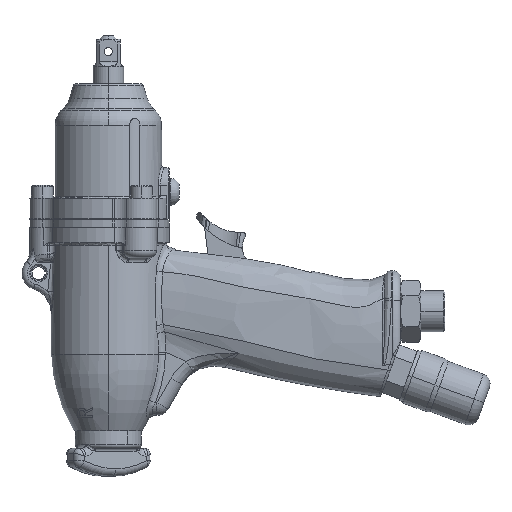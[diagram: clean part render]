
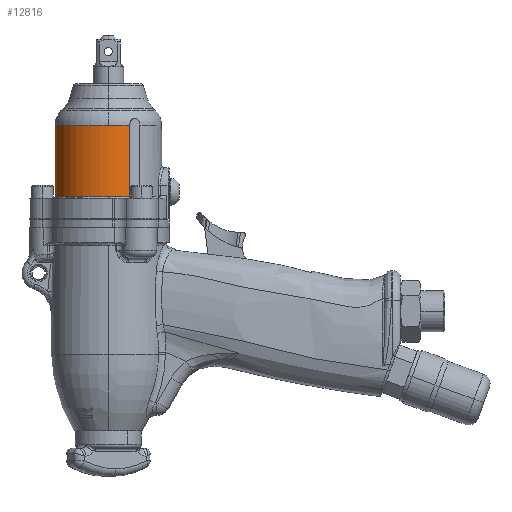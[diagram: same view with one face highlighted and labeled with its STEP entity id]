
A CAD part, left-side view. The second image highlights one B-rep face of the part: STEP entity #12816.
In plain terms, the highlighted cylindrical face has radius 21 mm (diameter 42 mm), a partial arc.
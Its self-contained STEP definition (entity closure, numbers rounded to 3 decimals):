
#12471 = VERTEX_POINT ( 'NONE', #75045 ) ;
#12473 = VERTEX_POINT ( 'NONE', #75044 ) ;
#12515 = VERTEX_POINT ( 'NONE', #75150 ) ;
#12517 = EDGE_CURVE ( 'NONE', #12518, #12515, #75149, .T. ) ;
#12518 = VERTEX_POINT ( 'NONE', #75144 ) ;
#12529 = EDGE_CURVE ( 'NONE', #12473, #12471, #75184, .T. ) ;
#12816 = ADVANCED_FACE ( 'NONE', ( #75837 ), #75835, .T. ) ;
#12817 = EDGE_LOOP ( 'NONE', ( #12818, #12821, #12822, #12823, #12881, #12882 ) ) ;
#12818 = ORIENTED_EDGE ( 'NONE', *, *, #12819, .T. ) ;
#12819 = EDGE_CURVE ( 'NONE', #12820, #12850, #75836, .T. ) ;
#12820 = VERTEX_POINT ( 'NONE', #75817 ) ;
#12821 = ORIENTED_EDGE ( 'NONE', *, *, #12826, .T. ) ;
#12822 = ORIENTED_EDGE ( 'NONE', *, *, #12517, .T. ) ;
#12823 = ORIENTED_EDGE ( 'NONE', *, *, #12824, .T. ) ;
#12824 = EDGE_CURVE ( 'NONE', #12515, #12473, #75816, .T. ) ;
#12826 = EDGE_CURVE ( 'NONE', #12850, #12518, #75811, .T. ) ;
#12850 = VERTEX_POINT ( 'NONE', #75923 ) ;
#12881 = ORIENTED_EDGE ( 'NONE', *, *, #12529, .T. ) ;
#12882 = ORIENTED_EDGE ( 'NONE', *, *, #12883, .T. ) ;
#12883 = EDGE_CURVE ( 'NONE', #12471, #12820, #76010, .T. ) ;
#75044 = CARTESIAN_POINT ( 'NONE',  ( -2.267, 20.877, -44.5 ) ) ;
#75045 = CARTESIAN_POINT ( 'NONE',  ( -21., 0., -44.5 ) ) ;
#75144 = CARTESIAN_POINT ( 'NONE',  ( -21., 0., -16.314 ) ) ;
#75145 = DIRECTION ( 'NONE',  ( -1., 0., 0. ) ) ;
#75146 = DIRECTION ( 'NONE',  ( 0., 0., -1. ) ) ;
#75147 = CARTESIAN_POINT ( 'NONE',  ( 0., 0., -16.314 ) ) ;
#75148 = AXIS2_PLACEMENT_3D ( 'NONE', #75147, #75146, #75145 ) ;
#75149 = CIRCLE ( 'NONE', #75148, 21. ) ;
#75150 = CARTESIAN_POINT ( 'NONE',  ( -2.267, 20.877, -16.314 ) ) ;
#75180 = DIRECTION ( 'NONE',  ( -1., 0., 0. ) ) ;
#75181 = DIRECTION ( 'NONE',  ( 0., 0., 1. ) ) ;
#75182 = CARTESIAN_POINT ( 'NONE',  ( 0., 0., -44.5 ) ) ;
#75183 = AXIS2_PLACEMENT_3D ( 'NONE', #75182, #75181, #75180 ) ;
#75184 = CIRCLE ( 'NONE', #75183, 21. ) ;
#75807 = DIRECTION ( 'NONE',  ( -1., 0., 0. ) ) ;
#75808 = DIRECTION ( 'NONE',  ( 0., 0., -1. ) ) ;
#75809 = CARTESIAN_POINT ( 'NONE',  ( 0., 0., -16.314 ) ) ;
#75810 = AXIS2_PLACEMENT_3D ( 'NONE', #75809, #75808, #75807 ) ;
#75811 = CIRCLE ( 'NONE', #75810, 21. ) ;
#75812 = DIRECTION ( 'NONE',  ( 0., 0., -1. ) ) ;
#75813 = VECTOR ( 'NONE', #75812, 1000. ) ;
#75815 = CARTESIAN_POINT ( 'NONE',  ( -2.267, 20.877, -30.407 ) ) ;
#75816 = LINE ( 'NONE', #75815, #75813 ) ;
#75817 = CARTESIAN_POINT ( 'NONE',  ( -19.214, -8.475, -44.5 ) ) ;
#75818 = DIRECTION ( 'NONE',  ( 0., 0., 1. ) ) ;
#75819 = VECTOR ( 'NONE', #75818, 1000. ) ;
#75820 = CARTESIAN_POINT ( 'NONE',  ( -19.214, -8.475, -30.407 ) ) ;
#75821 = DIRECTION ( 'NONE',  ( 1., 0., 0. ) ) ;
#75822 = DIRECTION ( 'NONE',  ( 0., 0., 1. ) ) ;
#75823 = AXIS2_PLACEMENT_3D ( 'NONE', #75834, #75822, #75821 ) ;
#75834 = CARTESIAN_POINT ( 'NONE',  ( 0., 0., 13.626 ) ) ;
#75835 = CYLINDRICAL_SURFACE ( 'NONE', #75823, 21. ) ;
#75836 = LINE ( 'NONE', #75820, #75819 ) ;
#75837 = FACE_OUTER_BOUND ( 'NONE', #12817, .T. ) ;
#75923 = CARTESIAN_POINT ( 'NONE',  ( -19.214, -8.475, -16.314 ) ) ;
#76006 = DIRECTION ( 'NONE',  ( -1., 0., 0. ) ) ;
#76007 = DIRECTION ( 'NONE',  ( 0., 0., 1. ) ) ;
#76008 = CARTESIAN_POINT ( 'NONE',  ( 0., 0., -44.5 ) ) ;
#76009 = AXIS2_PLACEMENT_3D ( 'NONE', #76008, #76007, #76006 ) ;
#76010 = CIRCLE ( 'NONE', #76009, 21. ) ;
